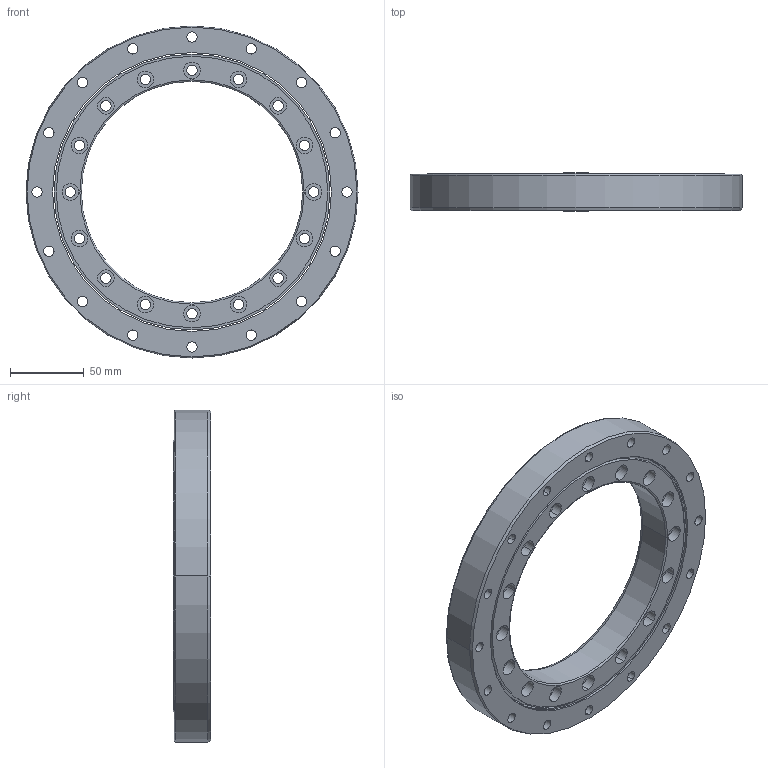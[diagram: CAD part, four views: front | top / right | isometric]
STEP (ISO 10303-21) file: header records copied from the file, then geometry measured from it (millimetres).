
FILE_DESCRIPTION((''),'2;1');
FILE_NAME('XSU080188','2017-01-19T',('Administrator'),(''),'PRO/ENGINEER BY PARAMETRIC TECHNOLOGY CORPORATION, 2010180','PRO/ENGINEER BY PARAMETRIC TECHNOLOGY CORPORATION, 2010180','');
FILE_SCHEMA(('AUTOMOTIVE_DESIGN_CC2 { 1 2 10303 214 -1 1 5 2 }'));
Length unit declared in the file: millimetre
Products named in the file (1): XSU080188
Bounding box: 225 x 25.4 x 225 mm (x, y, z)
Volume: 445371.5 mm3; surface area: 130447.2 mm2
Topology: 2 solids, 2 shells, 210 faces, 549 edges, 417 vertices
Faces by surface type: cylinder 152, plane 42, cone 12, torus 4
Entity records: 7094 total; most frequent: DIRECTION 1355, CARTESIAN_POINT 1108, ORIENTED_EDGE 968, AXIS2_PLACEMENT_3D 563, EDGE_CURVE 484, CIRCLE 320, VERTEX_POINT 316, EDGE_LOOP 316
